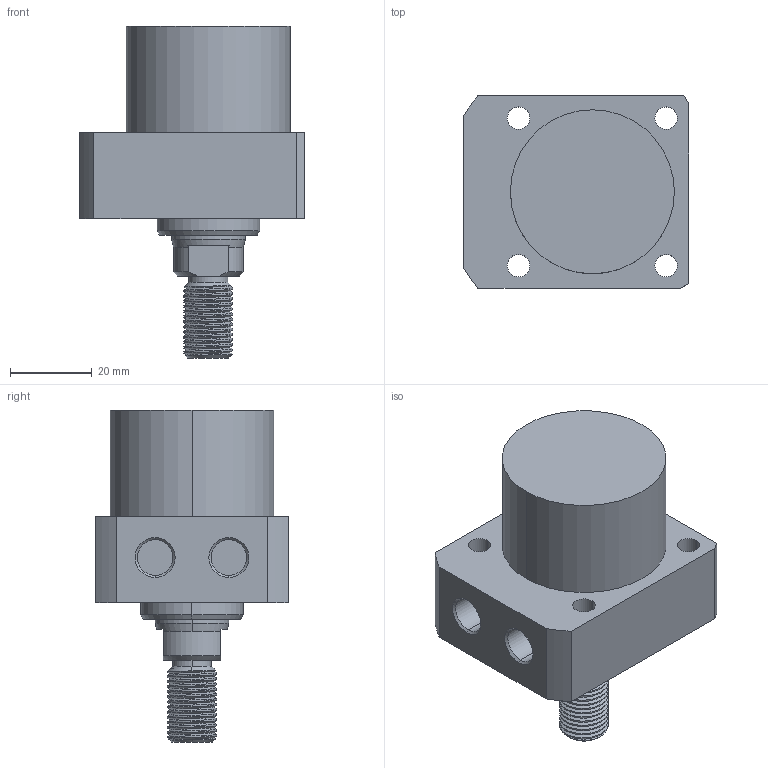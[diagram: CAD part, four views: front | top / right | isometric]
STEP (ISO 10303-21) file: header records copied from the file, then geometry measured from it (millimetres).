
FILE_DESCRIPTION (( 'STEP AP214' ), '1' );
FILE_NAME ('CLLR-040CT-(1-14).STEP', '2020-01-08T10:34:20', ( 'Windows' ), ( 'Microsoft' ), 'SwSTEP 2.0', 'SolidWorks 2015', '' );
FILE_SCHEMA (( 'AUTOMOTIVE_DESIGN' ));
Length unit declared in the file: millimetre
Products named in the file (1): CLLR-040CT-(1-14)
Bounding box: 55 x 47 x 81 mm (x, y, z)
Volume: 88710.6 mm3; surface area: 16610.4 mm2
Topology: 1 solids, 1 shells, 93 faces, 237 edges, 154 vertices
Faces by surface type: cylinder 56, plane 20, cone 15, bspline 2
Entity records: 4534 total; most frequent: CARTESIAN_POINT 2321, ORIENTED_EDGE 474, DIRECTION 424, EDGE_CURVE 237, AXIS2_PLACEMENT_3D 166, VERTEX_POINT 154, EDGE_LOOP 109, FACE_OUTER_BOUND 93
